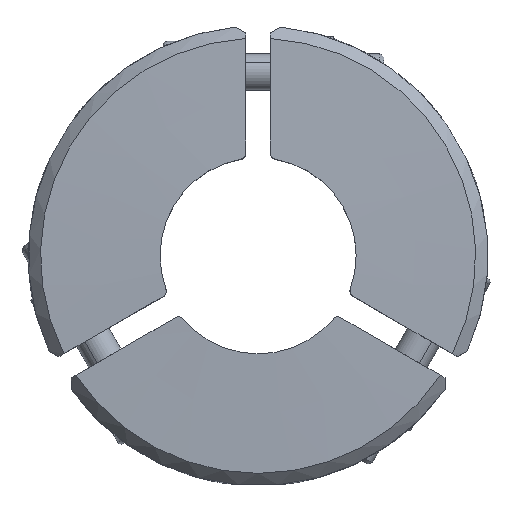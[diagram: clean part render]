
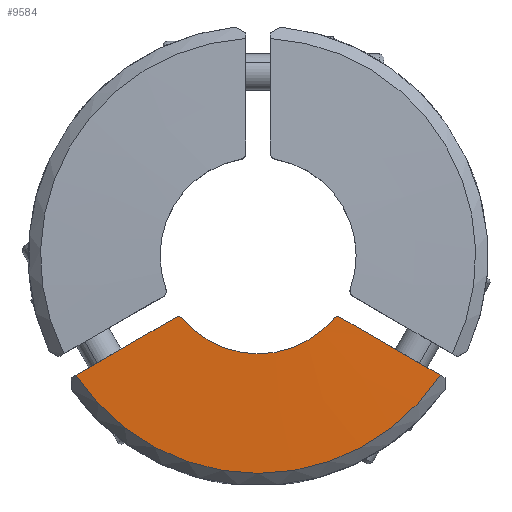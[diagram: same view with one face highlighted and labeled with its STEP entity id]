
A CAD part, top view. The second image highlights one B-rep face of the part: STEP entity #9584.
In plain terms, the highlighted conical face has half-angle 88 degrees and reference radius 27 mm.
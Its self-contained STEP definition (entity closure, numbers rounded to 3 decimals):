
#976=CARTESIAN_POINT('',(12.819,-9.98,9.991));
#977=VERTEX_POINT('',#976);
#986=CARTESIAN_POINT('',(13.491,-10.099,9.97));
#987=VERTEX_POINT('',#986);
#988=CARTESIAN_POINT('',(12.819,-9.98,9.991));
#989=CARTESIAN_POINT('',(12.839,-9.976,9.991));
#990=CARTESIAN_POINT('',(12.858,-9.973,9.99));
#991=CARTESIAN_POINT('',(12.998,-9.957,9.987));
#992=CARTESIAN_POINT('',(13.128,-9.966,9.983));
#993=CARTESIAN_POINT('',(13.337,-10.022,9.976));
#994=CARTESIAN_POINT('',(13.418,-10.056,9.973));
#995=CARTESIAN_POINT('',(13.491,-10.099,9.97));
#996=B_SPLINE_CURVE_WITH_KNOTS('',3,(#988,#989,#990,#991,#992,#993,#994,#995),.UNSPECIFIED.,.F.,.U.,(4,2,2,4),(0.525,0.531,0.567,0.591),.UNSPECIFIED.);
#997=EDGE_CURVE('',#977,#987,#996,.T.);
#1026=CARTESIAN_POINT('',(-12.819,-9.98,9.991));
#1027=VERTEX_POINT('',#1026);
#1036=CARTESIAN_POINT('',(-12.227,-10.32,10.0));
#1037=VERTEX_POINT('',#1036);
#1038=CARTESIAN_POINT('',(-12.819,-9.98,9.991));
#1039=CARTESIAN_POINT('',(-12.718,-9.997,9.994));
#1040=CARTESIAN_POINT('',(-12.614,-10.032,9.996));
#1041=CARTESIAN_POINT('',(-12.406,-10.144,9.999));
#1042=CARTESIAN_POINT('',(-12.305,-10.227,10.0));
#1043=CARTESIAN_POINT('',(-12.227,-10.32,10.0));
#1044=B_SPLINE_CURVE_WITH_KNOTS('',3,(#1038,#1039,#1040,#1041,#1042,#1043),.UNSPECIFIED.,.F.,.U.,(4,2,4),(0.392,0.422,0.458),.UNSPECIFIED.);
#1045=EDGE_CURVE('',#1027,#1037,#1044,.T.);
#8423=CARTESIAN_POINT('',(29.696,-19.454,9.319));
#8424=VERTEX_POINT('',#8423);
#8425=CARTESIAN_POINT('',(13.491,-10.099,9.97));
#8426=CARTESIAN_POINT('',(18.708,-13.11,9.761));
#8427=CARTESIAN_POINT('',(29.696,-19.454,9.319));
#8435=(BOUNDED_CURVE()B_SPLINE_CURVE(2,(#8425,#8426,#8427),.UNSPECIFIED.,.F.,.U.)B_SPLINE_CURVE_WITH_KNOTS((3,3),(7.255,7.482),.UNSPECIFIED.)CURVE()GEOMETRIC_REPRESENTATION_ITEM()RATIONAL_B_SPLINE_CURVE((2.095,1.591,1.053))REPRESENTATION_ITEM(''));
#8436=EDGE_CURVE('',#987,#8424,#8435,.T.);
#8622=CARTESIAN_POINT('',(-29.696,-19.454,9.319));
#8623=VERTEX_POINT('',#8622);
#8637=CARTESIAN_POINT('',(-13.491,-10.099,9.97));
#8638=VERTEX_POINT('',#8637);
#8639=CARTESIAN_POINT('',(-29.696,-19.454,9.319));
#8640=CARTESIAN_POINT('',(-18.708,-13.11,9.761));
#8641=CARTESIAN_POINT('',(-13.491,-10.099,9.97));
#8649=(BOUNDED_CURVE()B_SPLINE_CURVE(2,(#8639,#8640,#8641),.UNSPECIFIED.,.F.,.U.)B_SPLINE_CURVE_WITH_KNOTS((3,3),(0.011,0.239),.UNSPECIFIED.)CURVE()GEOMETRIC_REPRESENTATION_ITEM()RATIONAL_B_SPLINE_CURVE((1.053,1.591,2.095))REPRESENTATION_ITEM(''));
#8650=EDGE_CURVE('',#8623,#8638,#8649,.T.);
#8713=CARTESIAN_POINT('',(-13.491,-10.099,9.97));
#8714=CARTESIAN_POINT('',(-13.418,-10.056,9.973));
#8715=CARTESIAN_POINT('',(-13.337,-10.022,9.976));
#8716=CARTESIAN_POINT('',(-13.128,-9.966,9.983));
#8717=CARTESIAN_POINT('',(-12.998,-9.957,9.987));
#8718=CARTESIAN_POINT('',(-12.858,-9.973,9.99));
#8719=CARTESIAN_POINT('',(-12.839,-9.976,9.991));
#8720=CARTESIAN_POINT('',(-12.819,-9.98,9.991));
#8721=B_SPLINE_CURVE_WITH_KNOTS('',3,(#8713,#8714,#8715,#8716,#8717,#8718,#8719,#8720),.UNSPECIFIED.,.F.,.U.,(4,2,2,4),(0.325,0.35,0.386,0.392),.UNSPECIFIED.);
#8722=EDGE_CURVE('',#8638,#1027,#8721,.T.);
#8773=CARTESIAN_POINT('',(12.227,-10.32,10.0));
#8774=VERTEX_POINT('',#8773);
#8781=CARTESIAN_POINT('',(12.227,-10.32,10.0));
#8782=CARTESIAN_POINT('',(12.305,-10.227,10.0));
#8783=CARTESIAN_POINT('',(12.406,-10.144,9.999));
#8784=CARTESIAN_POINT('',(12.614,-10.032,9.996));
#8785=CARTESIAN_POINT('',(12.718,-9.997,9.994));
#8786=CARTESIAN_POINT('',(12.819,-9.98,9.991));
#8787=B_SPLINE_CURVE_WITH_KNOTS('',3,(#8781,#8782,#8783,#8784,#8785,#8786),.UNSPECIFIED.,.F.,.U.,(4,2,4),(0.458,0.494,0.525),.UNSPECIFIED.);
#8788=EDGE_CURVE('',#8774,#977,#8787,.T.);
#8898=CARTESIAN_POINT('',(0.,0.,9.319));
#8899=DIRECTION('',(0.,0.,-1.0));
#8900=DIRECTION('',(-0.838,-0.545,0.));
#8901=AXIS2_PLACEMENT_3D('',#8898,#8899,#8900);
#8902=CIRCLE('',#8901,35.501);
#8903=EDGE_CURVE('',#8424,#8623,#8902,.T.);
#9563=CARTESIAN_POINT('',(0.,0.,9.616));
#9564=DIRECTION('',(0.,0.,-1.0));
#9565=DIRECTION('',(-0.866,-0.5,0.));
#9566=AXIS2_PLACEMENT_3D('',#9563,#9564,#9565);
#9567=CONICAL_SURFACE('',#9566,27.,88.);
#9568=ORIENTED_EDGE('',*,*,#8722,.F.);
#9569=ORIENTED_EDGE('',*,*,#8650,.F.);
#9570=ORIENTED_EDGE('',*,*,#8903,.F.);
#9571=ORIENTED_EDGE('',*,*,#8436,.F.);
#9572=ORIENTED_EDGE('',*,*,#997,.F.);
#9573=ORIENTED_EDGE('',*,*,#8788,.F.);
#9574=CARTESIAN_POINT('',(0.0,0.0,10.0));
#9575=DIRECTION('',(0.0,0.0,1.0));
#9576=DIRECTION('',(-0.797,-0.604,0.0));
#9577=AXIS2_PLACEMENT_3D('',#9574,#9575,#9576);
#9578=CIRCLE('',#9577,16.);
#9579=EDGE_CURVE('',#1037,#8774,#9578,.T.);
#9580=ORIENTED_EDGE('',*,*,#9579,.F.);
#9581=ORIENTED_EDGE('',*,*,#1045,.F.);
#9582=EDGE_LOOP('',(#9568,#9569,#9570,#9571,#9572,#9573,#9580,#9581));
#9583=FACE_OUTER_BOUND('',#9582,.T.);
#9584=ADVANCED_FACE('',(#9583),#9567,.T.);
